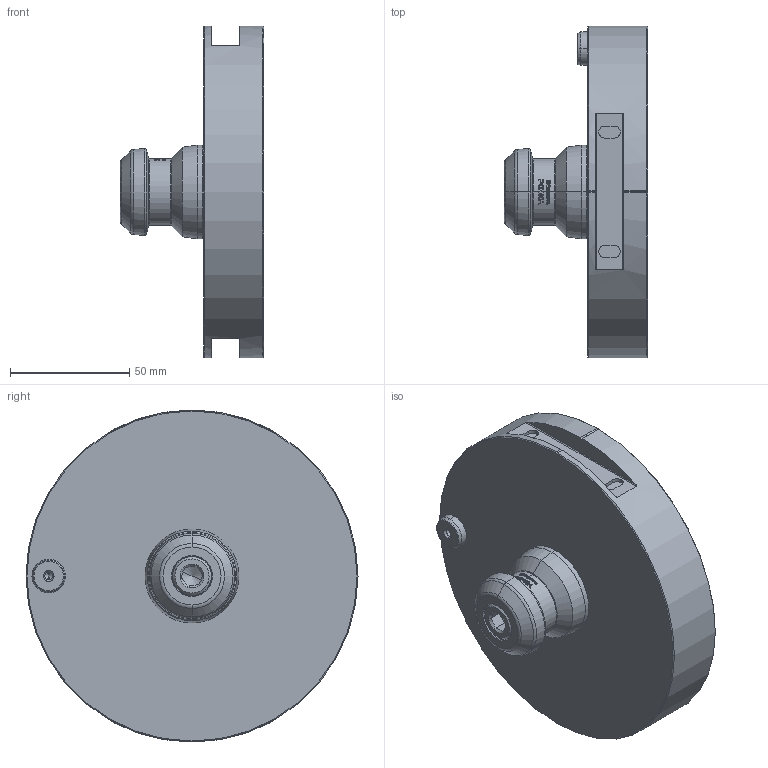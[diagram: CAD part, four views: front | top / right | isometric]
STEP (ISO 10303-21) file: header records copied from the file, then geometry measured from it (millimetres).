
FILE_DESCRIPTION (( 'STEP AP203' ), '1' );
FILE_NAME ('61P296320.STEP', '2024-04-26T07:16:51', ( '' ), ( '' ), 'SwSTEP 2.0', 'SolidWorks 2022', '' );
FILE_SCHEMA (( 'CONFIG_CONTROL_DESIGN' ));
Length unit declared in the file: millimetre
Products named in the file (5): 61P296320; 61P864333; 61P493325; 0030110050; 61P293306
Assembly tree (4 placements, depth 2):
  61P296320
    61P864333
    61P293306
    61P493325
    0030110050
Bounding box: 60 x 139 x 139 mm (x, y, z)
Volume: 401104.3 mm3; surface area: 54886.2 mm2
Topology: 4 solids, 4 shells, 347 faces, 1520 edges, 1225 vertices
Faces by surface type: plane 152, cylinder 73, cone 58, bspline 48, torus 16
Entity records: 18891 total; most frequent: CARTESIAN_POINT 7440, ORIENTED_EDGE 3028, DIRECTION 1641, EDGE_CURVE 1514, VERTEX_POINT 1225, AXIS2_PLACEMENT_3D 556, VECTOR 529, LINE 529
